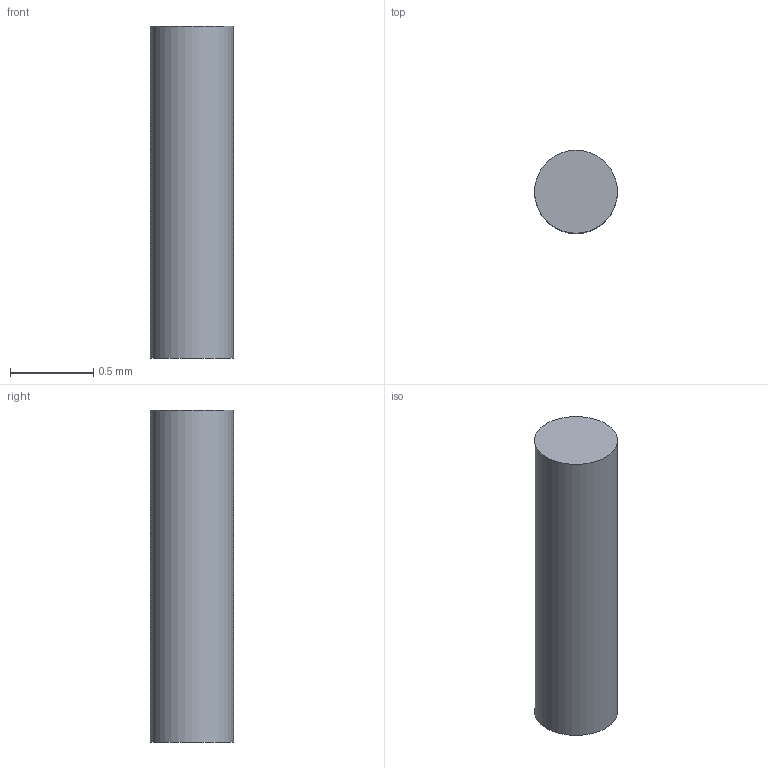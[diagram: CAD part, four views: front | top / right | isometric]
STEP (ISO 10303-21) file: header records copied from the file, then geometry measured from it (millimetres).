
FILE_DESCRIPTION(('step-conformance generated part'),'2;1');
FILE_NAME('tiny_pin.step','2026-10-12T00:00:00',(''),(''),'step-conformance generate','step-conformance generate','');
FILE_SCHEMA(('AUTOMOTIVE_DESIGN { 1 0 10303 214 1 1 1 1 }'));
Length unit declared in the file: millimetre
Products named in the file (1): tiny_pin
Bounding box: 0.5 x 0.5 x 2 mm (x, y, z)
Volume: 0.4 mm3; surface area: 3.5 mm2
Topology: 1 solids, 1 shells, 3 faces, 3 edges, 2 vertices
Faces by surface type: plane 2, cylinder 1
Full cylindrical faces by diameter (mm): 0.5 x1
Entity records: 63 total; most frequent: DIRECTION 12, CARTESIAN_POINT 8, AXIS2_PLACEMENT_3D 6, ORIENTED_EDGE 4, EDGE_LOOP 4, FACE_OUTER_BOUND 3, ADVANCED_FACE 3, CIRCLE 2
